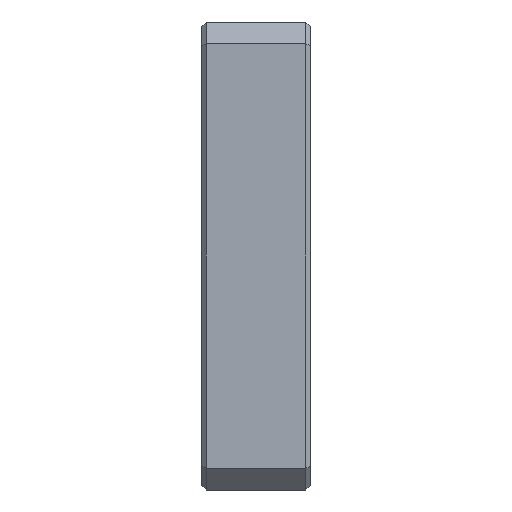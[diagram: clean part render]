
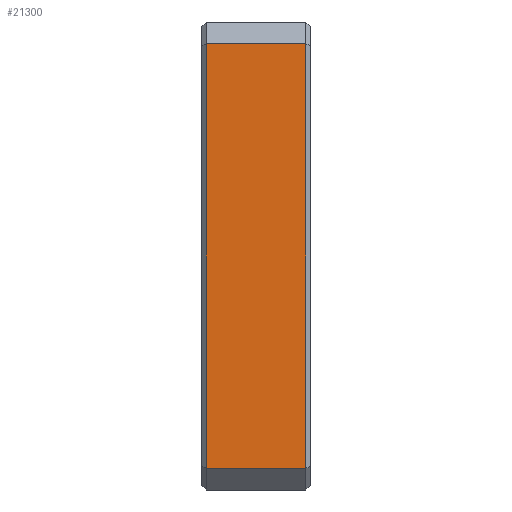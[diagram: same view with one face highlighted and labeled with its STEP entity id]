
A CAD part, left-side view. The second image highlights one B-rep face of the part: STEP entity #21300.
In plain terms, the highlighted planar face has unit normal (-1, 0, 0).
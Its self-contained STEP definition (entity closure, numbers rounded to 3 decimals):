
#7350=DIRECTION('',(0.,0.,1.));
#7351=VECTOR('',#7350,98.);
#7352=CARTESIAN_POINT('',(-54.,24.,-49.));
#7353=LINE('',#7352,#7351);
#7354=DIRECTION('',(0.,-1.,0.));
#7355=VECTOR('',#7354,23.);
#7356=CARTESIAN_POINT('',(-54.,24.,49.));
#7357=LINE('',#7356,#7355);
#7358=DIRECTION('',(0.,0.,-1.));
#7359=VECTOR('',#7358,98.);
#7360=CARTESIAN_POINT('',(-54.,1.,49.));
#7361=LINE('',#7360,#7359);
#7362=DIRECTION('',(0.,-1.,0.));
#7363=VECTOR('',#7362,23.);
#7364=CARTESIAN_POINT('',(-54.,24.,-49.));
#7365=LINE('',#7364,#7363);
#9272=CARTESIAN_POINT('',(-54.,24.,-49.));
#9273=VERTEX_POINT('',#9272);
#9276=CARTESIAN_POINT('',(-54.,24.,49.));
#9277=VERTEX_POINT('',#9276);
#9302=CARTESIAN_POINT('',(-54.,1.,-49.));
#9303=VERTEX_POINT('',#9302);
#9314=CARTESIAN_POINT('',(-54.,1.,49.));
#9315=VERTEX_POINT('',#9314);
#21287=CARTESIAN_POINT('',(-54.,25.,-54.));
#21288=DIRECTION('',(-1.,0.,0.));
#21289=DIRECTION('',(0.,0.,1.));
#21290=AXIS2_PLACEMENT_3D('',#21287,#21288,#21289);
#21291=PLANE('',#21290);
#21293=ORIENTED_EDGE('',*,*,#21292,.T.);
#21294=ORIENTED_EDGE('',*,*,#15788,.T.);
#21296=ORIENTED_EDGE('',*,*,#21295,.T.);
#21297=ORIENTED_EDGE('',*,*,#21279,.F.);
#21298=EDGE_LOOP('',(#21293,#21294,#21296,#21297));
#21299=FACE_OUTER_BOUND('',#21298,.F.);
#21300=ADVANCED_FACE('',(#21299),#21291,.T.);
#15788=EDGE_CURVE('',#9277,#9315,#7357,.T.);
#21279=EDGE_CURVE('',#9273,#9303,#7365,.T.);
#21292=EDGE_CURVE('',#9273,#9277,#7353,.T.);
#21295=EDGE_CURVE('',#9315,#9303,#7361,.T.);
